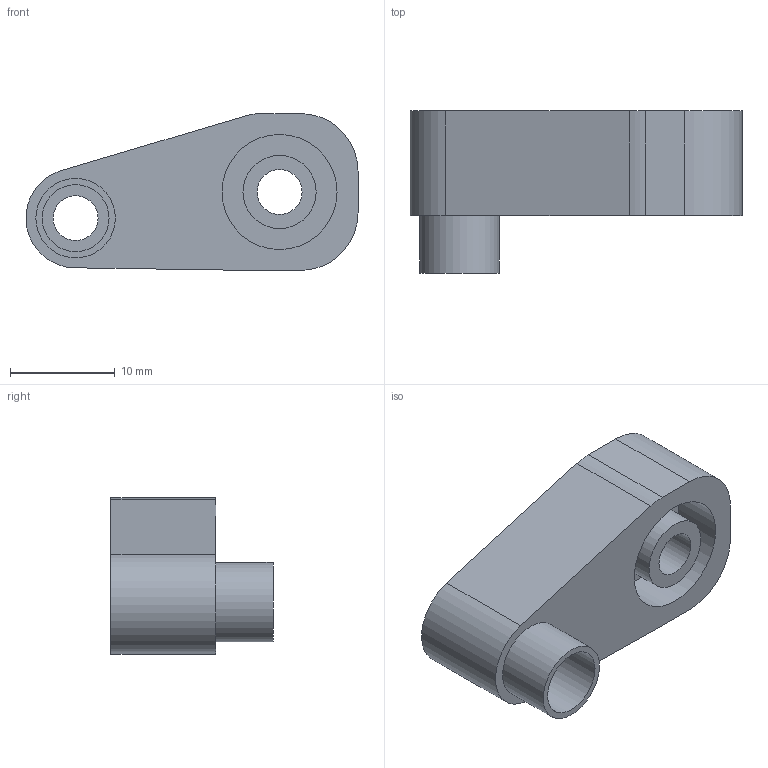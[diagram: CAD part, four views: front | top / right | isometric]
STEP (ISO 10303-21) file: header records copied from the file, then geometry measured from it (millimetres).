
FILE_DESCRIPTION(/* description */ ('STEP AP242 Edition 2','CAx-IF Rec.Pracs.---Representation and Presentation of Product Manufacturing Information (PMI)---4.0---2014-10-13','CAx-IF Rec.Pracs.---3D Tessellated Geometry---0.4---2014-09-14','2;1','CAx-IF Rec.Pracs.---User Defined Attributes---1.5---2016-08-15'),/* implementation_level */ '2;1');
FILE_NAME(/* name */ 'Assembly 1 - Joint 1',/* time_stamp */ '2026-06-23T19:13:02Z',/* author */ (''),/* organization */ (''),/* preprocessor_version */ 'ST-DEVELOPER v20',/* originating_system */ 'ONSHAPE BY PTC INC, 1.216',/* authorisation */ ' ');
FILE_SCHEMA (('AP242_MANAGED_MODEL_BASED_3D_ENGINEERING_MIM_LF { 1 0 10303 442 3 1 4 }'));
Length unit declared in the file: metre
Products named in the file (1): Joint 1
Bounding box: 31.74 x 15.5 x 15 mm (x, y, z)
Volume: 3153.6 mm3; surface area: 2363.8 mm2
Topology: 1 solids, 1 shells, 28 faces, 64 edges, 43 vertices
Faces by surface type: plane 18, cylinder 10
Full cylindrical faces by diameter (mm): 4.3 x2, 6.4 x1, 7 x1, 7.6 x1, 11 x1
Entity records: 787 total; most frequent: DIRECTION 135, CARTESIAN_POINT 128, ORIENTED_EDGE 114, EDGE_CURVE 57, AXIS2_PLACEMENT_3D 49, EDGE_LOOP 43, FACE_BOUND 43, VERTEX_POINT 42
